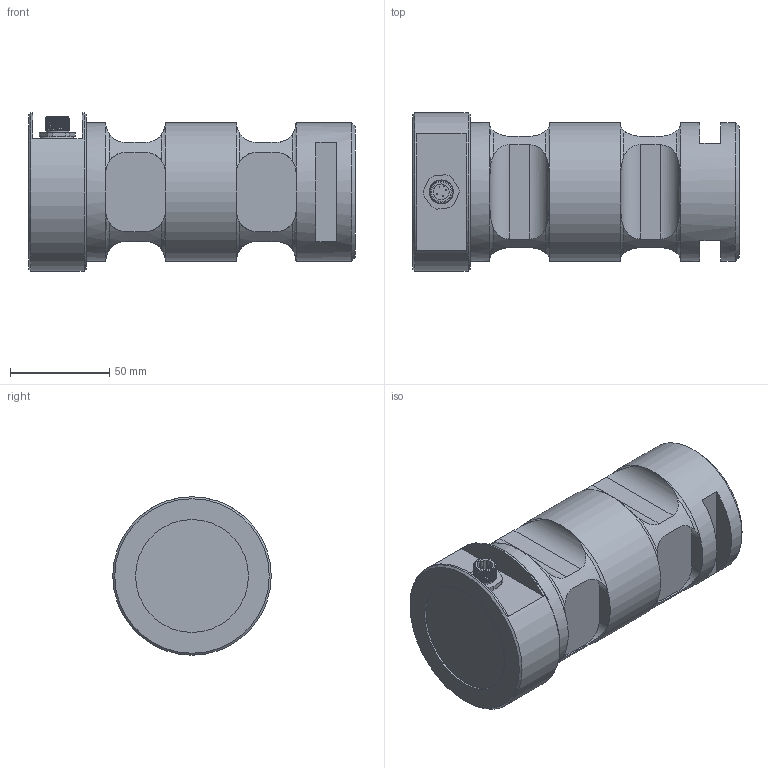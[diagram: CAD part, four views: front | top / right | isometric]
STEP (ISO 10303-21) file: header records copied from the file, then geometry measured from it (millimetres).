
FILE_DESCRIPTION(/* description */ ('Alibre Inc.'),/* implementation_level */ '2;1');
FILE_NAME(/* name */ 'export0',/* time_stamp */ '2016-01-14T13:34:28+01:00',/* author */ (''),/* organization */ (''),/* preprocessor_version */ 'ST-DEVELOPER v14',/* originating_system */ 'Alibre',/* authorisation */ '');
FILE_SCHEMA (('CONFIG_CONTROL_DESIGN'));
Length unit declared in the file: centimetre
Products named in the file (6): ID_1; ID_2; ID_3; ID_4
Bounding box: 165 x 80 x 80 mm (x, y, z)
Volume: 584360 mm3; surface area: 55232.7 mm2
Topology: 8 solids, 8 shells, 196 faces, 443 edges, 272 vertices
Faces by surface type: plane 78, cylinder 71, bspline 23, torus 17, cone 7
Full cylindrical faces by diameter (mm): 0.5 x8, 8 x2, 10 x3, 11.5 x1, 13 x1, 14.376 x1, 57 x1, 70 x3, 80 x1
Entity records: 18853 total; most frequent: CARTESIAN_POINT 14727, ORIENTED_EDGE 820, DIRECTION 510, EDGE_CURVE 405, VERTEX_POINT 264, FACE_BOUND 242, EDGE_LOOP 241, AXIS2_PLACEMENT_3D 225
